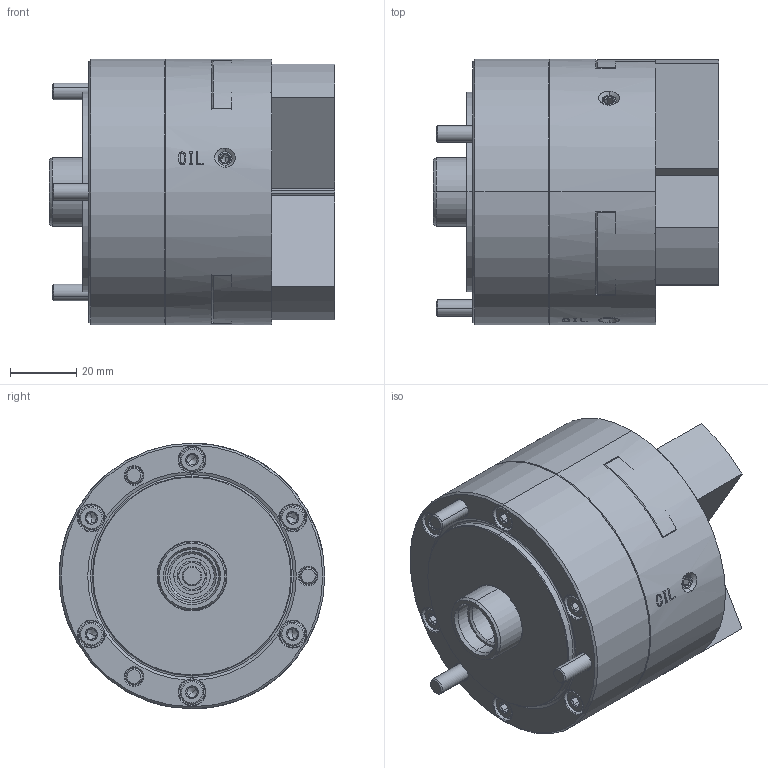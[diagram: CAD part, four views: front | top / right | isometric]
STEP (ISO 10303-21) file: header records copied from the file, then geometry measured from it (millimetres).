
FILE_DESCRIPTION (( 'STEP AP214' ), '1' );
FILE_NAME ('DEV-KPC803C100-OUUTSIDE_VIEW_UC.STEP', '2023-12-21T06:01:16', ( '' ), ( '' ), 'SwSTEP 2.0', 'SolidWorks 2022', '' );
FILE_SCHEMA (( 'AUTOMOTIVE_DESIGN' ));
Length unit declared in the file: millimetre
Products named in the file (7): Copy of 0284210012^DEV-KPC803C100-クミタテ; Copy of 61P315009^DEV-KPC803C100-クミタテ; DEV-KPC803C100-OUUTSIDE_VIEW_UC; Part1^DEV-KPC803C100-クミタテ; Copy of 0030105060^DEV-KPC803C100-クミタテ; Copy of 0030105016^DEV-KPC803C100-クミタテ; Copy of 61P418231^DEV-KPC803C100-クミタテ
Assembly tree (17 placements, depth 2):
  DEV-KPC803C100-OUUTSIDE_VIEW_UC
    Copy of 61P315009^DEV-KPC803C100-クミタテ  x3
    Copy of 61P418231^DEV-KPC803C100-クミタテ
    Copy of 0030105060^DEV-KPC803C100-クミタテ  x3
    Copy of 0030105016^DEV-KPC803C100-クミタテ  x3
    Copy of 0284210012^DEV-KPC803C100-クミタテ  x6
    Part1^DEV-KPC803C100-クミタテ
Bounding box: 85.9 x 80 x 80 mm (x, y, z)
Volume: 312708 mm3; surface area: 55093.2 mm2
Topology: 19 solids, 22 shells, 1533 faces, 3875 edges, 2470 vertices
Faces by surface type: plane 717, cone 300, cylinder 264, bspline 228, torus 24
Entity records: 50058 total; most frequent: CARTESIAN_POINT 18290, ORIENTED_EDGE 6894, DIRECTION 5674, EDGE_CURVE 3447, VERTEX_POINT 2230, LINE 1978, VECTOR 1978, AXIS2_PLACEMENT_3D 1848
